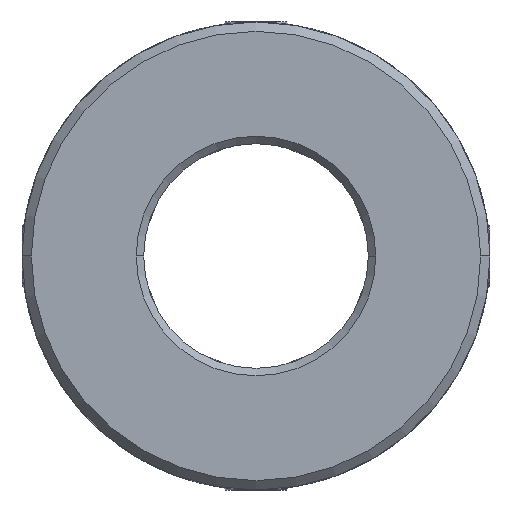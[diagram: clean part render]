
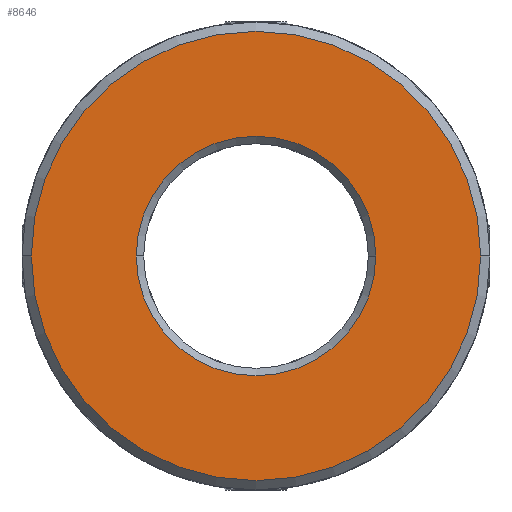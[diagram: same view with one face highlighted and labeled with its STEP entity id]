
A CAD part, front view. The second image highlights one B-rep face of the part: STEP entity #8646.
In plain terms, the highlighted planar face has unit normal (0, -1, 0).
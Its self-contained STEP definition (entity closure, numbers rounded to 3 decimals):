
#502 = VERTEX_POINT ( 'NONE', #2692 ) ;
#545 = DIRECTION ( 'NONE',  ( 0., 1., 0. ) ) ;
#848 = CARTESIAN_POINT ( 'NONE',  ( 12., -28., 0. ) ) ;
#1056 = VERTEX_POINT ( 'NONE', #848 ) ;
#1186 = CARTESIAN_POINT ( 'NONE',  ( -19.597, -28., -50. ) ) ;
#1538 = VERTEX_POINT ( 'NONE', #7525 ) ;
#1703 = DIRECTION ( 'NONE',  ( -1., 0., 0. ) ) ;
#1985 = CARTESIAN_POINT ( 'NONE',  ( 0., -28., 0. ) ) ;
#2028 = PLANE ( 'NONE',  #2816 ) ;
#2091 = AXIS2_PLACEMENT_3D ( 'NONE', #1985, #7404, #3398 ) ;
#2673 = EDGE_CURVE ( 'NONE', #502, #1056, #7265, .T. ) ;
#2692 = CARTESIAN_POINT ( 'NONE',  ( -12., -28., 0. ) ) ;
#2816 = AXIS2_PLACEMENT_3D ( 'NONE', #1186, #545, #5946 ) ;
#2948 = AXIS2_PLACEMENT_3D ( 'NONE', #7187, #4059, #1703 ) ;
#3297 = FACE_BOUND ( 'NONE', #4510, .T. ) ;
#3398 = DIRECTION ( 'NONE',  ( -1., 0., 0. ) ) ;
#3470 = ORIENTED_EDGE ( 'NONE', *, *, #5638, .T. ) ;
#3650 = DIRECTION ( 'NONE',  ( 0., -1., 0. ) ) ;
#3725 = DIRECTION ( 'NONE',  ( -1., 0., 0. ) ) ;
#4015 = VERTEX_POINT ( 'NONE', #5152 ) ;
#4059 = DIRECTION ( 'NONE',  ( 0., 1., 0. ) ) ;
#4510 = EDGE_LOOP ( 'NONE', ( #3470, #8514 ) ) ;
#5027 = CIRCLE ( 'NONE', #2091, 6.4 ) ;
#5152 = CARTESIAN_POINT ( 'NONE',  ( -6.4, -28., 0. ) ) ;
#5197 = AXIS2_PLACEMENT_3D ( 'NONE', #8355, #3650, #3725 ) ;
#5638 = EDGE_CURVE ( 'NONE', #1538, #4015, #5027, .T. ) ;
#5687 = AXIS2_PLACEMENT_3D ( 'NONE', #8193, #9714, #9642 ) ;
#5946 = DIRECTION ( 'NONE',  ( -1., 0., 0. ) ) ;
#6122 = EDGE_CURVE ( 'NONE', #4015, #1538, #9501, .T. ) ;
#6653 = EDGE_CURVE ( 'NONE', #1056, #502, #9614, .T. ) ;
#7187 = CARTESIAN_POINT ( 'NONE',  ( 0., -28., 0. ) ) ;
#7265 = CIRCLE ( 'NONE', #5687, 12. ) ;
#7304 = FACE_OUTER_BOUND ( 'NONE', #8257, .T. ) ;
#7404 = DIRECTION ( 'NONE',  ( 0., 1., 0. ) ) ;
#7525 = CARTESIAN_POINT ( 'NONE',  ( 6.4, -28., 0. ) ) ;
#8193 = CARTESIAN_POINT ( 'NONE',  ( 0., -28., 0. ) ) ;
#8257 = EDGE_LOOP ( 'NONE', ( #9697, #9161 ) ) ;
#8355 = CARTESIAN_POINT ( 'NONE',  ( 0., -28., 0. ) ) ;
#8514 = ORIENTED_EDGE ( 'NONE', *, *, #6122, .T. ) ;
#8646 = ADVANCED_FACE ( 'NONE', ( #7304, #3297 ), #2028, .F. ) ;
#9161 = ORIENTED_EDGE ( 'NONE', *, *, #6653, .T. ) ;
#9501 = CIRCLE ( 'NONE', #2948, 6.4 ) ;
#9614 = CIRCLE ( 'NONE', #5197, 12. ) ;
#9642 = DIRECTION ( 'NONE',  ( -1., 0., 0. ) ) ;
#9697 = ORIENTED_EDGE ( 'NONE', *, *, #2673, .T. ) ;
#9714 = DIRECTION ( 'NONE',  ( 0., -1., 0. ) ) ;
